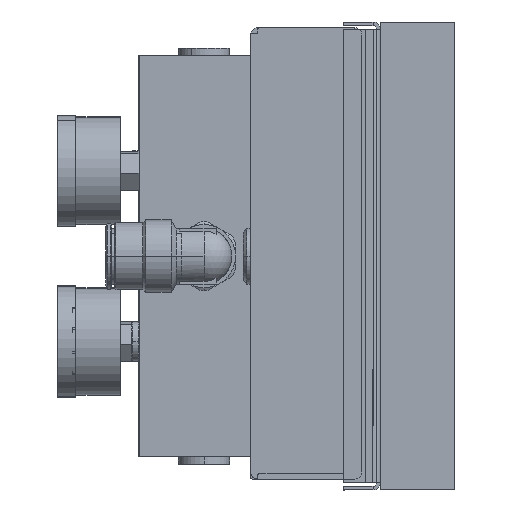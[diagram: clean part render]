
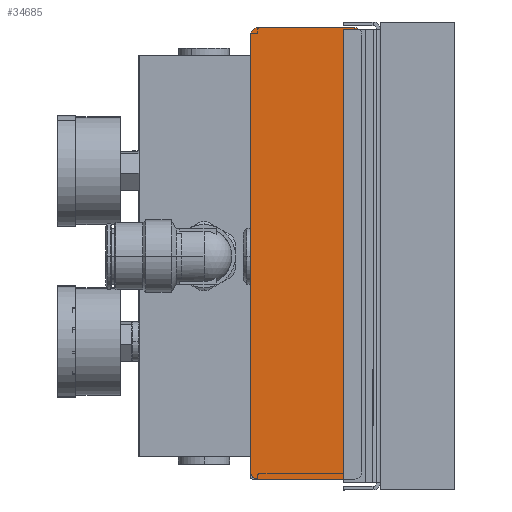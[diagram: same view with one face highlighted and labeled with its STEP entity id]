
A CAD part, left-side view. The second image highlights one B-rep face of the part: STEP entity #34685.
In plain terms, the highlighted planar face has unit normal (-1, 0, 0).
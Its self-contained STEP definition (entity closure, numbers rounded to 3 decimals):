
#6625 = AXIS2_PLACEMENT_3D ( 'NONE', #27517, #27518, #27519 ) ;
#8904 = CARTESIAN_POINT ( 'NONE',  ( -599.453, 13., -58. ) ) ;
#9551 = DIRECTION ( 'NONE',  ( 0., 1., 0. ) ) ;
#9555 = CARTESIAN_POINT ( 'NONE',  ( -599.453, -15., 61.5 ) ) ;
#9564 = DIRECTION ( 'NONE',  ( 0., -1., 0. ) ) ;
#9589 = CARTESIAN_POINT ( 'NONE',  ( -599.453, 13., 59.5 ) ) ;
#9591 = DIRECTION ( 'NONE',  ( -1., 0., 0. ) ) ;
#9592 = DIRECTION ( 'NONE',  ( 0., 0., -1. ) ) ;
#9594 = CARTESIAN_POINT ( 'NONE',  ( -599.453, -15., -60. ) ) ;
#9597 = CARTESIAN_POINT ( 'NONE',  ( -599.453, 15., -60. ) ) ;
#9599 = DIRECTION ( 'NONE',  ( 0., 0., 1. ) ) ;
#9610 = DIRECTION ( 'NONE',  ( 0., 0., -1. ) ) ;
#9611 = CARTESIAN_POINT ( 'NONE',  ( -599.453, -15., -60. ) ) ;
#9628 = DIRECTION ( 'NONE',  ( -1., 0., 0. ) ) ;
#9629 = DIRECTION ( 'NONE',  ( -1., 0., 0. ) ) ;
#9631 = CARTESIAN_POINT ( 'NONE',  ( -599.453, -13., -58. ) ) ;
#9633 = DIRECTION ( 'NONE',  ( 0., 0., -1. ) ) ;
#9779 = DIRECTION ( 'NONE',  ( 0., 0., -1. ) ) ;
#11081 = CIRCLE ( 'NONE', #17580, 2. ) ;
#12840 = EDGE_CURVE ( 'NONE', #45540, #45776, #11081, .T. ) ;
#13324 = EDGE_CURVE ( 'NONE', #45237, #46329, #15823, .T. ) ;
#13326 = EDGE_CURVE ( 'NONE', #46087, #45289, #15763, .T. ) ;
#13330 = EDGE_CURVE ( 'NONE', #45717, #45274, #15630, .T. ) ;
#13332 = EDGE_CURVE ( 'NONE', #45289, #45540, #15532, .T. ) ;
#13336 = EDGE_CURVE ( 'NONE', #45274, #45237, #15609, .T. ) ;
#13337 = EDGE_CURVE ( 'NONE', #46329, #46087, #15510, .T. ) ;
#13340 = EDGE_CURVE ( 'NONE', #45776, #45717, #15664, .T. ) ;
#14031 = ORIENTED_EDGE ( 'NONE', *, *, #13337, .T. ) ;
#14033 = ORIENTED_EDGE ( 'NONE', *, *, #13332, .T. ) ;
#14363 = ORIENTED_EDGE ( 'NONE', *, *, #12840, .T. ) ;
#14410 = ORIENTED_EDGE ( 'NONE', *, *, #13326, .T. ) ;
#14541 = ORIENTED_EDGE ( 'NONE', *, *, #13330, .T. ) ;
#14543 = ORIENTED_EDGE ( 'NONE', *, *, #13340, .T. ) ;
#14545 = ORIENTED_EDGE ( 'NONE', *, *, #13324, .T. ) ;
#14547 = ORIENTED_EDGE ( 'NONE', *, *, #13336, .T. ) ;
#15390 = VECTOR ( 'NONE', #9551, 1000. ) ;
#15457 = VECTOR ( 'NONE', #9610, 1000. ) ;
#15493 = VECTOR ( 'NONE', #9564, 1000. ) ;
#15510 = LINE ( 'NONE', #9611, #15493 ) ;
#15532 = LINE ( 'NONE', #9594, #15598 ) ;
#15598 = VECTOR ( 'NONE', #9599, 1000. ) ;
#15609 = LINE ( 'NONE', #9597, #15457 ) ;
#15630 = CIRCLE ( 'NONE', #16893, 2. ) ;
#15664 = LINE ( 'NONE', #9555, #15390 ) ;
#15763 = CIRCLE ( 'NONE', #16892, 2. ) ;
#15823 = CIRCLE ( 'NONE', #17054, 2. ) ;
#16517 = CARTESIAN_POINT ( 'NONE',  ( -599.453, 15., -58. ) ) ;
#16531 = CARTESIAN_POINT ( 'NONE',  ( -599.453, 15., 59.5 ) ) ;
#16536 = CARTESIAN_POINT ( 'NONE',  ( -599.453, -15., -58. ) ) ;
#16636 = CARTESIAN_POINT ( 'NONE',  ( -599.453, -15., 59.5 ) ) ;
#16673 = CARTESIAN_POINT ( 'NONE',  ( -599.453, 13., 61.5 ) ) ;
#16690 = CARTESIAN_POINT ( 'NONE',  ( -599.453, -13., 61.5 ) ) ;
#16892 = AXIS2_PLACEMENT_3D ( 'NONE', #9631, #9629, #9633 ) ;
#16893 = AXIS2_PLACEMENT_3D ( 'NONE', #9589, #9591, #9592 ) ;
#17054 = AXIS2_PLACEMENT_3D ( 'NONE', #8904, #9628, #9779 ) ;
#17580 = AXIS2_PLACEMENT_3D ( 'NONE', #38736, #38739, #38760 ) ;
#27509 = PLANE ( 'NONE',  #6625 ) ;
#27517 = CARTESIAN_POINT ( 'NONE',  ( -599.453, 15., -60. ) ) ;
#27518 = DIRECTION ( 'NONE',  ( 1., 0., 0. ) ) ;
#27519 = DIRECTION ( 'NONE',  ( 0., 0., -1. ) ) ;
#34685 = ADVANCED_FACE ( 'NONE', ( #39982 ), #27509, .F. ) ;
#37369 = EDGE_LOOP ( 'NONE', ( #14543, #14541, #14547, #14545, #14031, #14410, #14033, #14363 ) ) ;
#38736 = CARTESIAN_POINT ( 'NONE',  ( -599.453, -13., 59.5 ) ) ;
#38739 = DIRECTION ( 'NONE',  ( -1., 0., 0. ) ) ;
#38760 = DIRECTION ( 'NONE',  ( 0., 0., -1. ) ) ;
#39982 = FACE_OUTER_BOUND ( 'NONE', #37369, .T. ) ;
#40095 = CARTESIAN_POINT ( 'NONE',  ( -599.453, -13., -60. ) ) ;
#40187 = CARTESIAN_POINT ( 'NONE',  ( -599.453, 13., -60. ) ) ;
#45237 = VERTEX_POINT ( 'NONE', #16517 ) ;
#45274 = VERTEX_POINT ( 'NONE', #16531 ) ;
#45289 = VERTEX_POINT ( 'NONE', #16536 ) ;
#45540 = VERTEX_POINT ( 'NONE', #16636 ) ;
#45717 = VERTEX_POINT ( 'NONE', #16673 ) ;
#45776 = VERTEX_POINT ( 'NONE', #16690 ) ;
#46087 = VERTEX_POINT ( 'NONE', #40095 ) ;
#46329 = VERTEX_POINT ( 'NONE', #40187 ) ;
